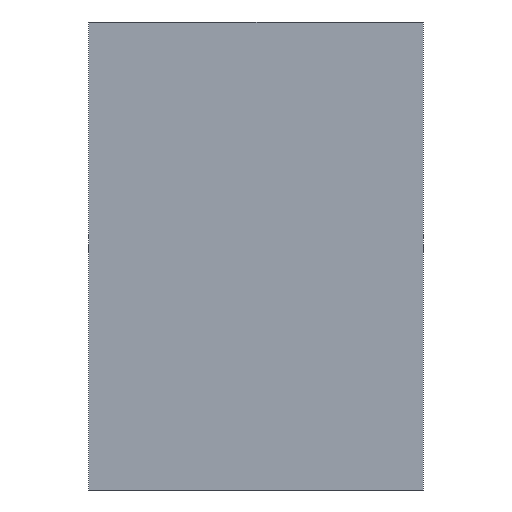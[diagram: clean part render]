
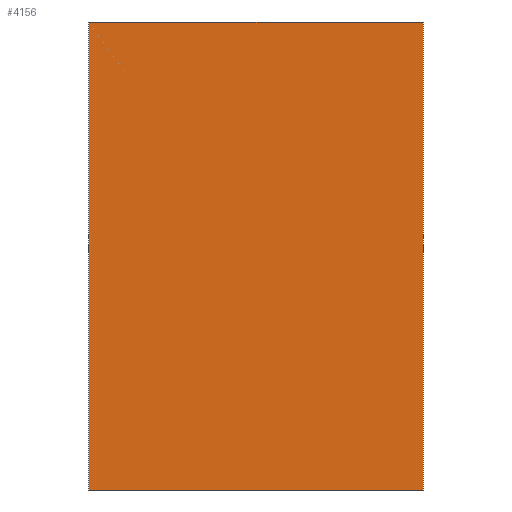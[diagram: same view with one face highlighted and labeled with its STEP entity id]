
A CAD part, front view. The second image highlights one B-rep face of the part: STEP entity #4156.
In plain terms, the highlighted planar face has unit normal (0, -1, 0).
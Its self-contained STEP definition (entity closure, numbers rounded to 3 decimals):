
#451=DIRECTION('',(0.,0.,-1.));
#452=VECTOR('',#451,175.);
#453=CARTESIAN_POINT('',(62.5,-12.,74.));
#454=LINE('',#453,#452);
#455=DIRECTION('',(-1.,0.,0.));
#456=VECTOR('',#455,125.);
#457=CARTESIAN_POINT('',(62.5,-12.,-101.));
#458=LINE('',#457,#456);
#459=DIRECTION('',(0.,0.,1.));
#460=VECTOR('',#459,175.);
#461=CARTESIAN_POINT('',(-62.5,-12.,-101.));
#462=LINE('',#461,#460);
#463=DIRECTION('',(1.,0.,0.));
#464=VECTOR('',#463,125.);
#465=CARTESIAN_POINT('',(-62.5,-12.,74.));
#466=LINE('',#465,#464);
#3119=CARTESIAN_POINT('',(62.5,-12.,74.));
#3120=CARTESIAN_POINT('',(62.5,-12.,-101.));
#3121=VERTEX_POINT('',#3119);
#3122=VERTEX_POINT('',#3120);
#3123=CARTESIAN_POINT('',(-62.5,-12.,-101.));
#3124=VERTEX_POINT('',#3123);
#3125=CARTESIAN_POINT('',(-62.5,-12.,74.));
#3126=VERTEX_POINT('',#3125);
#4142=CARTESIAN_POINT('',(0.,-12.,-13.5));
#4143=DIRECTION('',(0.,1.,0.));
#4144=DIRECTION('',(-1.,0.,0.));
#4145=AXIS2_PLACEMENT_3D('',#4142,#4143,#4144);
#4146=PLANE('',#4145);
#4147=ORIENTED_EDGE('',*,*,#4132,.T.);
#4149=ORIENTED_EDGE('',*,*,#4148,.T.);
#4151=ORIENTED_EDGE('',*,*,#4150,.T.);
#4153=ORIENTED_EDGE('',*,*,#4152,.T.);
#4154=EDGE_LOOP('',(#4147,#4149,#4151,#4153));
#4155=FACE_OUTER_BOUND('',#4154,.F.);
#4156=ADVANCED_FACE('',(#4155),#4146,.F.);
#4132=EDGE_CURVE('',#3121,#3122,#454,.T.);
#4148=EDGE_CURVE('',#3122,#3124,#458,.T.);
#4150=EDGE_CURVE('',#3124,#3126,#462,.T.);
#4152=EDGE_CURVE('',#3126,#3121,#466,.T.);
